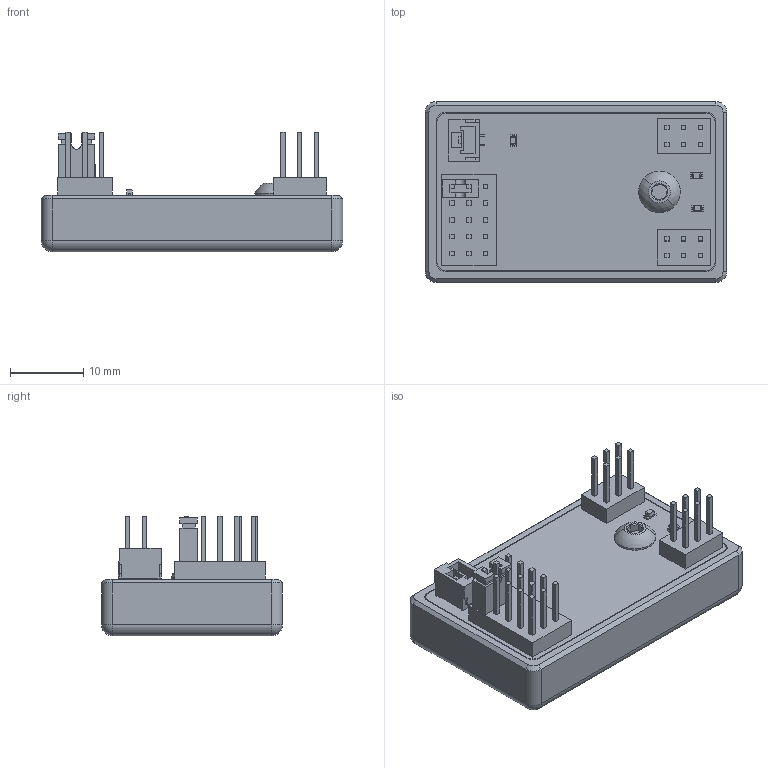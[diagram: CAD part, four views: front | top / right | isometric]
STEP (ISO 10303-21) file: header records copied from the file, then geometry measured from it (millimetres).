
FILE_DESCRIPTION (( 'STEP AP214' ), '1' );
FILE_NAME ('CMDR-ASM-THRUSTER-COMMANDER-R1.STEP', '2018-06-28T21:09:00', ( '' ), ( '' ), 'SwSTEP 2.0', 'SolidWorks 2016', '' );
FILE_SCHEMA (( 'AUTOMOTIVE_DESIGN' ));
Length unit declared in the file: metre
Products named in the file (1): CMDR-ASM-THRUSTER-COMMANDER-R1
Bounding box: 41.3 x 24.79 x 16.35 mm (x, y, z)
Volume: 6082 mm3; surface area: 6916.1 mm2
Topology: 11 solids, 11 shells, 460 faces, 1154 edges, 748 vertices
Faces by surface type: plane 349, cylinder 74, bspline 17, cone 14, sphere 6
Entity records: 19971 total; most frequent: CARTESIAN_POINT 3969, ORIENTED_EDGE 2300, DIRECTION 2060, EDGE_CURVE 1150, VECTOR 934, LINE 934, VERTEX_POINT 748, AXIS2_PLACEMENT_3D 563
